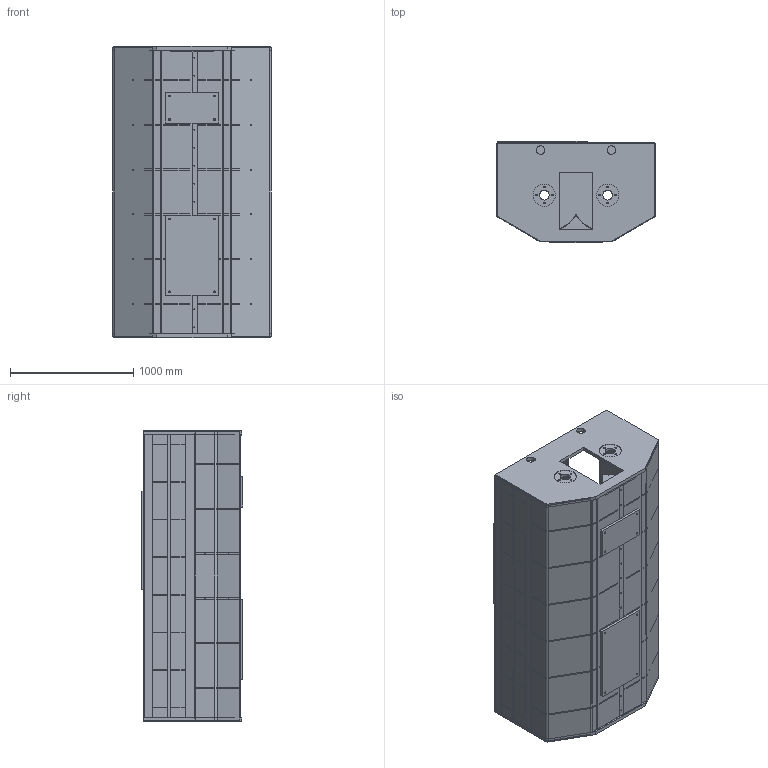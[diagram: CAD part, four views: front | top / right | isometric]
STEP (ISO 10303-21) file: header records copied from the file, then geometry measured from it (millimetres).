
FILE_DESCRIPTION(('HOOPS Exchange Step'),'2;1');
FILE_NAME('Y:\_FDM\CONCORSO_CAPPELLER\FILE DA INVIARE 2\VASCA_CONCORSO_CAPPELLER_2_MOD.stp','2026-08-26T10:00:07+02:00',('alessandro'),('Unknown organisation'),'HOOPS Exchange 2025.7','HOOPS Exchange','Unknown authorisation');
FILE_SCHEMA( ('AUTOMOTIVE_DESIGN { 1 0 10303 214 1 1 1 1 }') );
Length unit declared in the file: metre
Products named in the file (24): PIASTRA SUPERIORE; TUBI FE_Default<A macchina>; FIANCO LATERALE; FIANCO LATERALE ESTERNO; LAMIERA DI RINFORZO INTERNO; RINFORZO PICCOLO SX; RINFORZO PICCOLO DX; LAMIERA INFERIORE; PIASTRA PICCOLA INFERIORE; PIASTRA GARNDE INFERIORE; LONGHERONE DI RINFORZO; PIATTO UNIONE LAMIERE INTERNE; FONDO; TESTATA ANTERIORE; TESTATA POSTERIORE; RINFORZO; FIANCO LATERALE SOTTO; LAMIERA DX INTERNO VASCA; LAMIERA SX INTERNO VASCA; CASTELLO SUPERIORE; VASCA_CONCORSO_CAPPELLER_2_MOD
Assembly tree (47 placements, depth 3):
  VASCA_CONCORSO_CAPPELLER_2_MOD
    PIASTRA SUPERIORE
    FIANCO LATERALE ESTERNO
      TUBI FE_Default<A macchina>
      FIANCO LATERALE
    FONDO
      LAMIERA DI RINFORZO INTERNO
      RINFORZO PICCOLO SX  x6
      RINFORZO PICCOLO DX  x6
      LAMIERA INFERIORE
      PIASTRA PICCOLA INFERIORE
      PIASTRA GARNDE INFERIORE
      LONGHERONE DI RINFORZO
      PIATTO UNIONE LAMIERE INTERNE
    TESTATA ANTERIORE
    TESTATA POSTERIORE
    FIANCO LATERALE SOTTO
      RINFORZO  x6
      FIANCO LATERALE SOTTO
    FIANCO LATERALE ESTERNO
      TUBI FE_Default<A macchina>
      FIANCO LATERALE
    LAMIERA DX INTERNO VASCA
    FIANCO LATERALE SOTTO
      RINFORZO  x6
      FIANCO LATERALE SOTTO
    LAMIERA SX INTERNO VASCA
    CASTELLO SUPERIORE
Bounding box: 1289 x 825 x 2366 mm (x, y, z)
Volume: 142369485.4 mm3; surface area: 45829819.5 mm2
Topology: 78 solids, 107 shells, 1037 faces, 2688 edges, 1840 vertices
Faces by surface type: plane 760, cylinder 277
Full cylindrical faces by diameter (mm): 7 x12, 8 x40, 8.5 x4, 10 x4, 12 x32, 14 x24, 17.5 x2, 70 x2, 80 x5, 180 x4, 300 x2
Entity records: 20427 total; most frequent: DIRECTION 3565, CARTESIAN_POINT 3441, ORIENTED_EDGE 3198, EDGE_CURVE 1641, AXIS2_PLACEMENT_3D 1274, VERTEX_POINT 1142, VECTOR 1017, LINE 1017
